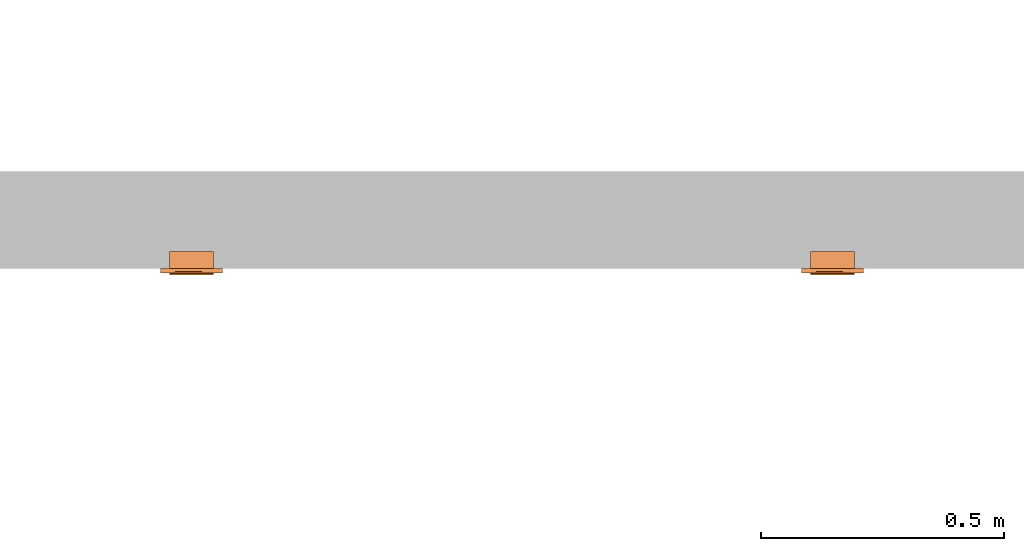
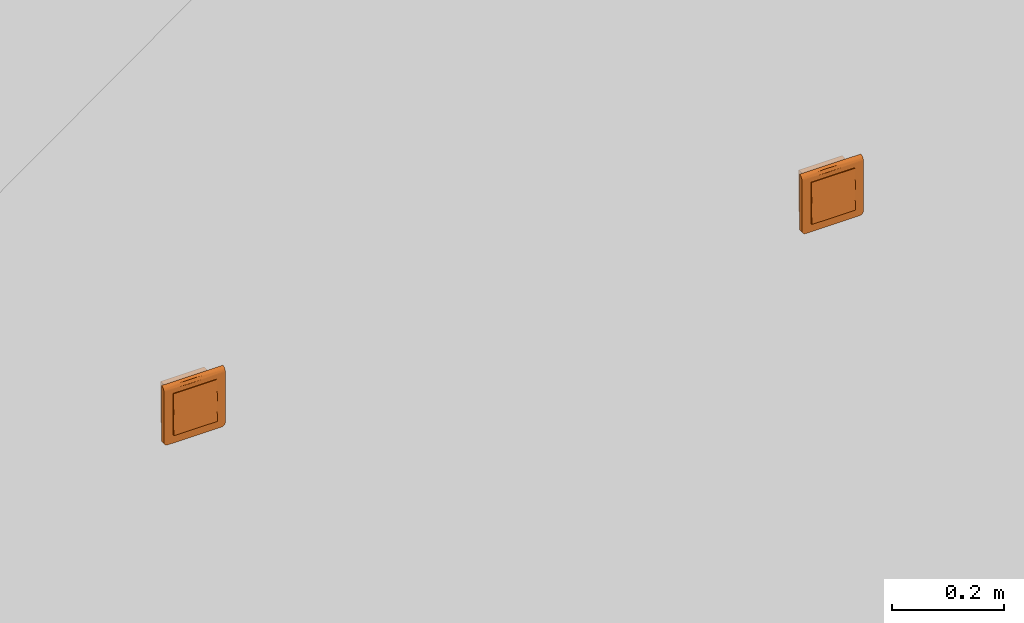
# One storey, part 148 of 197: 2 proxies.
"""IFC2X3 building model written with IfcOpenShell, lengths in metres."""

from ifc_helpers import new_model, entity, si_unit, converted_unit, direction, frame, origin, place, context, subcontext, project, spatial, faceted_brep, source, transform, mapped, material, material_list, type_object, type_shapes, element, save


model = new_model("IFC2X3")

# Units and contexts
model_context = context("Model", 3, precision=1e-05, world=origin(), true_north=direction((6.123031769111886e-17, 1.0)))
body_context = subcontext(model_context, "Body", "Model", "MODEL_VIEW")
ifc_project = project(units=[si_unit("LENGTHUNIT", "METRE"), converted_unit("PLANEANGLEUNIT", "DEGREE", entity("IfcPlaneAngleMeasure", 0.017453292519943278), si_unit("PLANEANGLEUNIT", "RADIAN"), dimensions=[0, 0, 0, 0, 0, 0, 0]), si_unit("AREAUNIT", "SQUARE_METRE")], contexts=[model_context])

# Site, building, storey
site_placement = place(None, origin())
site = spatial("IfcSite", under=ifc_project, at=site_placement, Name="Default", CompositionType="ELEMENT")
building_placement = place(site_placement, origin())
building = spatial("IfcBuilding", under=site, at=building_placement, CompositionType="ELEMENT")
storey_placement = place(building_placement, origin())
storey = spatial("IfcBuildingStorey", under=building, at=storey_placement, Name="Niveau 0", CompositionType="ELEMENT", Elevation=0.0)

# Proxies
ifc_material_1 = material(Name="<Unnamed>")
ifc_material_2 = material(Name="BETCE-DOIGT-BLANC")
ifc_material_3 = material(Name="BETCE-ENJOLIVEUR-BLANC")
ifc_material_list = material_list([ifc_material_1, ifc_material_2, ifc_material_3])
building_element_proxy_type_1 = type_object("IfcBuildingElementProxyType", Name="Tableau commande 2x4 modules encastré:8 BP", PredefinedType="NOTDEFINED", material=ifc_material_list)
shared_shape_1 = source(origin(), body_context, "Body", "Brep", [
    faceted_brep([(0.04499999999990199, 0.0, 0.0), (0.04499999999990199, 0.03499999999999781, 0.0), (0.022499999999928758, 0.03499999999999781, 0.0), (0.022499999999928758, 0.0, 0.0), (0.04499999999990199, 0.0, -0.045000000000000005), (0.022499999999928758, 0.0, -0.045000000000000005), (0.022499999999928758, 0.03499999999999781, -0.045000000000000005), (0.04499999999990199, 0.03499999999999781, -0.045000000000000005)], [[[0, 1, 2, 3]], [[4, 5, 6, 7]], [[1, 0, 4, 7]], [[2, 1, 7, 6]], [[3, 2, 6, 5]], [[0, 3, 5, 4]]]),
    faceted_brep([(0.04499999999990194, 0.0, 0.045000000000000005), (0.04499999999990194, 0.03499999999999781, 0.045000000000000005), (0.022499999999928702, 0.03499999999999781, 0.045000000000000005), (0.022499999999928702, 0.0, 0.045000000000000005), (0.04499999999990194, 0.0, 0.0), (0.022499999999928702, 0.0, 0.0), (0.022499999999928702, 0.03499999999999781, 0.0), (0.04499999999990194, 0.03499999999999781, 0.0)], [[[0, 1, 2, 3]], [[4, 5, 6, 7]], [[1, 0, 4, 7]], [[2, 1, 7, 6]], [[3, 2, 6, 5]], [[0, 3, 5, 4]]]),
    faceted_brep([(0.022499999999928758, 0.0, 0.0), (0.022499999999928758, 0.03499999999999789, 0.0), (0.0, 0.03499999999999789, 0.0), (0.0, 0.0, 0.0), (0.022499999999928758, 0.0, -0.045000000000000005), (0.0, 0.0, -0.045000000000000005), (0.0, 0.03499999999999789, -0.045000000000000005), (0.022499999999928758, 0.03499999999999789, -0.045000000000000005)], [[[0, 1, 2, 3]], [[4, 5, 6, 7]], [[1, 0, 4, 7]], [[2, 1, 7, 6]], [[3, 2, 6, 5]], [[0, 3, 5, 4]]]),
    faceted_brep([(0.0224999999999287, 0.0, 0.045000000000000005), (0.0224999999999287, 0.03499999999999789, 0.045000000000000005), (0.0, 0.03499999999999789, 0.045000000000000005), (0.0, 0.0, 0.045000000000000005), (0.0224999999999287, 0.0, 0.0), (0.0, 0.0, 0.0), (0.0, 0.03499999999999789, 0.0), (0.0224999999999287, 0.03499999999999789, 0.0)], [[[0, 1, 2, 3]], [[4, 5, 6, 7]], [[1, 0, 4, 7]], [[2, 1, 7, 6]], [[3, 2, 6, 5]], [[0, 3, 5, 4]]]),
    faceted_brep([(0.0, 0.0, 0.0), (0.0, 0.034999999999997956, 0.0), (-0.022500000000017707, 0.034999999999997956, 0.0), (-0.022500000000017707, 0.0, 0.0), (0.0, 0.0, -0.045000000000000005), (-0.022500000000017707, 0.0, -0.045000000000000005), (-0.022500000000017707, 0.034999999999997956, -0.045000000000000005), (0.0, 0.034999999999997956, -0.045000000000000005)], [[[0, 1, 2, 3]], [[4, 5, 6, 7]], [[1, 0, 4, 7]], [[2, 1, 7, 6]], [[3, 2, 6, 5]], [[0, 3, 5, 4]]]),
    faceted_brep([(0.0, 0.0, 0.045000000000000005), (0.0, 0.034999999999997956, 0.045000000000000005), (-0.022500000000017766, 0.034999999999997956, 0.045000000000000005), (-0.022500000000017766, 0.0, 0.045000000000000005), (0.0, 0.0, 0.0), (-0.022500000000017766, 0.0, 0.0), (-0.022500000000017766, 0.034999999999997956, 0.0), (0.0, 0.034999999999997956, 0.0)], [[[0, 1, 2, 3]], [[4, 5, 6, 7]], [[1, 0, 4, 7]], [[2, 1, 7, 6]], [[3, 2, 6, 5]], [[0, 3, 5, 4]]]),
    faceted_brep([(-0.02250000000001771, 0.0, 0.0), (-0.02250000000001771, 0.034999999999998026, 0.0), (-0.044999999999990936, 0.034999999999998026, 0.0), (-0.044999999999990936, 0.0, 0.0), (-0.02250000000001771, 0.0, -0.045000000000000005), (-0.044999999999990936, 0.0, -0.045000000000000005), (-0.044999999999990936, 0.034999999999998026, -0.045000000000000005), (-0.02250000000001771, 0.034999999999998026, -0.045000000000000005)], [[[0, 1, 2, 3]], [[4, 5, 6, 7]], [[1, 0, 4, 7]], [[2, 1, 7, 6]], [[3, 2, 6, 5]], [[0, 3, 5, 4]]]),
    faceted_brep([(-0.022500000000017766, 0.0, 0.045000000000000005), (-0.022500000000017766, 0.034999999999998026, 0.045000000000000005), (-0.044999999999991, 0.034999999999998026, 0.045000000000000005), (-0.044999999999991, 0.0, 0.045000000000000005), (-0.022500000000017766, 0.0, 0.0), (-0.044999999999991, 0.0, 0.0), (-0.044999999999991, 0.034999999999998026, 0.0), (-0.022500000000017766, 0.034999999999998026, 0.0)], [[[0, 1, 2, 3]], [[4, 5, 6, 7]], [[1, 0, 4, 7]], [[2, 1, 7, 6]], [[3, 2, 6, 5]], [[0, 3, 5, 4]]]),
    faceted_brep([(0.022499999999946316, 0.0, -0.045000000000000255), (0.022499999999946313, 0.0, 0.0), (0.04499999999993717, 0.0, 0.0), (0.04499999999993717, 0.0, -0.045000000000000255), (0.022499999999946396, -0.012750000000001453, -0.045000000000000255), (0.022499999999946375, -0.010500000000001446, 0.0), (0.044999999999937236, -0.010500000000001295, 0.0), (0.04499999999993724, -0.012750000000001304, -0.045000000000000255)], [[[0, 1, 2, 3]], [[1, 0, 4, 5]], [[2, 1, 5, 6]], [[3, 2, 6, 7]], [[0, 3, 7, 4]], [[5, 4, 7, 6]]]),
    faceted_brep([(0.0, 0.0, -0.04500000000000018), (0.0, 0.0, 0.0), (0.022499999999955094, 0.0, 0.0), (0.022499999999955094, 0.0, -0.04500000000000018), (0.0, -0.012750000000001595, -0.04500000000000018), (0.0, -0.010500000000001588, 0.0), (0.022499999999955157, -0.01050000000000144, 0.0), (0.022499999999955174, -0.012750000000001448, -0.04500000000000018)], [[[0, 1, 2, 3]], [[1, 0, 4, 5]], [[2, 1, 5, 6]], [[3, 2, 6, 7]], [[0, 3, 7, 4]], [[5, 4, 7, 6]]]),
    faceted_brep([(-0.022500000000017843, 0.0, -0.0450000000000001), (-0.022500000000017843, 0.0, 0.0), (0.0, 0.0, 0.0), (0.0, 0.0, -0.0450000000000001), (-0.02250000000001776, -0.012750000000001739, -0.0450000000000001), (-0.022500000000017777, -0.010500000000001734, 0.0), (0.0, -0.010500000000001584, 0.0), (0.0, -0.012750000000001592, -0.0450000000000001)], [[[0, 1, 2, 3]], [[1, 0, 4, 5]], [[2, 1, 5, 6]], [[3, 2, 6, 7]], [[0, 3, 7, 4]], [[5, 4, 7, 6]]]),
    faceted_brep([(-0.04499999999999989, 0.0, -0.045000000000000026), (-0.04499999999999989, 0.0, 0.0), (-0.022500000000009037, 0.0, 0.0), (-0.022500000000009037, 0.0, -0.045000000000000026), (-0.04499999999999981, -0.012750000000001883, -0.045000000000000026), (-0.04499999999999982, -0.010500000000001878, 0.0), (-0.022500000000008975, -0.01050000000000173, 0.0), (-0.022500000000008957, -0.012750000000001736, -0.045000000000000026)], [[[0, 1, 2, 3]], [[1, 0, 4, 5]], [[2, 1, 5, 6]], [[3, 2, 6, 7]], [[0, 3, 7, 4]], [[5, 4, 7, 6]]]),
    faceted_brep([(0.02249999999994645, -0.010500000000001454, 0.04499999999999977), (0.022499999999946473, -0.012750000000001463, 0.0), (0.04499999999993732, -0.012750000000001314, 0.0), (0.044999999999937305, -0.010500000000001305, 0.04499999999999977), (0.022499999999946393, 0.0, 0.0), (0.02249999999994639, 0.0, 0.04499999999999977), (0.04499999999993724, 0.0, 0.04499999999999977), (0.04499999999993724, 0.0, 0.0)], [[[0, 1, 2, 3]], [[4, 5, 6, 7]], [[5, 4, 1, 0]], [[6, 5, 0, 3]], [[7, 6, 3, 2]], [[4, 7, 2, 1]]]),
    faceted_brep([(0.0, -0.010500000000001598, 0.044999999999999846), (0.0, -0.012750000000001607, 0.0), (0.02249999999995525, -0.012750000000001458, 0.0), (0.022499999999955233, -0.010500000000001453, 0.044999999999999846), (0.0, 0.0, 0.0), (0.0, 0.0, 0.044999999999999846), (0.02249999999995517, 0.0, 0.04499999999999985), (0.02249999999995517, 0.0, 0.0)], [[[0, 1, 2, 3]], [[4, 5, 6, 7]], [[5, 4, 1, 0]], [[6, 5, 0, 3]], [[7, 6, 3, 2]], [[4, 7, 2, 1]]]),
    faceted_brep([(-0.0225000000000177, -0.010500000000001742, 0.04499999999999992), (-0.022500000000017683, -0.01275000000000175, 0.0), (0.0, -0.012750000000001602, 0.0), (0.0, -0.010500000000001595, 0.04499999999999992), (-0.022500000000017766, 0.0, 0.0), (-0.022500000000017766, 0.0, 0.04499999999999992), (0.0, 0.0, 0.04499999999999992), (0.0, 0.0, 0.0)], [[[0, 1, 2, 3]], [[4, 5, 6, 7]], [[5, 4, 1, 0]], [[6, 5, 0, 3]], [[7, 6, 3, 2]], [[4, 7, 2, 1]]]),
    faceted_brep([(-0.044999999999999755, -0.010500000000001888, 0.045), (-0.044999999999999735, -0.012750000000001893, 0.0), (-0.02250000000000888, -0.012750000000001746, 0.0), (-0.0225000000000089, -0.010500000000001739, 0.045), (-0.04499999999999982, 0.0, 0.0), (-0.04499999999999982, 0.0, 0.045), (-0.022500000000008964, 0.0, 0.045000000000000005), (-0.022500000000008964, 0.0, 0.0)], [[[0, 1, 2, 3]], [[4, 5, 6, 7]], [[5, 4, 1, 0]], [[6, 5, 0, 3]], [[7, 6, 3, 2]], [[4, 7, 2, 1]]]),
    faceted_brep([(0.06350000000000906, -0.009000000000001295, -0.055500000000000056), (0.06350000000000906, -0.009000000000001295, 0.05450000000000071), (0.045000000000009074, -0.00900000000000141, -0.045000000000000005), (0.055500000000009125, -0.009000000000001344, -0.06350000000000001), (0.057570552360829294, -0.009000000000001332, -0.06322740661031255), (0.06322740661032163, -0.009000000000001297, -0.05757055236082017), (0.04500000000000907, -0.00900000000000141, 0.045), (-0.044999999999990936, -0.00900000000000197, 0.045000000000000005), (-0.01112442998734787, -0.009000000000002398, 0.054500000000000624), (-0.06349999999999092, -0.009000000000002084, 0.05450000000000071), (-0.044999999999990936, -0.00900000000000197, -0.045000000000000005), (-0.06349999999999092, -0.009000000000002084, -0.05550000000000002), (-0.055499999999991, -0.009000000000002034, -0.06350000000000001), (-0.0575705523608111, -0.009000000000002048, -0.06322740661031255), (-0.06322740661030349, -0.009000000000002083, -0.05757055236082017), (-0.05949999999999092, -0.00900000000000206, -0.062428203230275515), (-0.062428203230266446, -0.009000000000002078, -0.05950000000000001), (-0.06115685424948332, -0.00900000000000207, -0.06115685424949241), (0.059500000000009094, -0.00900000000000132, -0.062428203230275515), (0.062428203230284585, -0.009000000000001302, -0.05949999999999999), (0.06115685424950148, -0.009000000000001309, -0.061156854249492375), (-0.063499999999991, 0.0, -0.05550000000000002), (-0.063499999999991, 0.0, 0.06350000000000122), (-0.044999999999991, 0.0, 0.045000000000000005), (-0.044999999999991, 0.0, -0.045000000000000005), (-0.055499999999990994, 0.0, -0.06350000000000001), (-0.06322740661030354, 0.0, -0.05757055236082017), (0.045000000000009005, 0.0, 0.045000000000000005), (0.011124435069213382, 0.0, 0.06350000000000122), (0.06350000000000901, 0.0, 0.0635), (0.06350000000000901, 0.0, -0.05550000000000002), (0.045000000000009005, 0.0, -0.045000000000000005), (0.05550000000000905, 0.0, -0.06350000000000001), (0.06322740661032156, 0.0, -0.05757055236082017), (0.057570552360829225, 0.0, -0.06322740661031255), (0.06242820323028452, 0.0, -0.05949999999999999), (0.05950000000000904, 0.0, -0.062428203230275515), (0.06115685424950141, 0.0, -0.061156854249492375), (-0.05757055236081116, 0.0, -0.06322740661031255), (-0.0624282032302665, 0.0, -0.05950000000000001), (-0.059499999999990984, 0.0, -0.062428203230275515), (-0.06115685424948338, 0.0, -0.06115685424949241), (0.06350000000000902, -0.00232937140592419, 0.06319333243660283), (0.06350000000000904, -0.004500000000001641, 0.06229422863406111), (0.06350000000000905, -0.006363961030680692, 0.06086396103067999), (0.06350000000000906, -0.007794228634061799, 0.05900000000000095), (0.06350000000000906, -0.008693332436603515, 0.056829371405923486), (-0.06349999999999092, -0.00869333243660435, 0.0568293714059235), (-0.06349999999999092, -0.007794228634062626, 0.059000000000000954), (-0.06349999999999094, -0.006363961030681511, 0.06086396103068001), (-0.06349999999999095, -0.004500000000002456, 0.062294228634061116), (-0.06349999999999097, -0.002329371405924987, 0.06319333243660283), (-0.010857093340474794, -0.006120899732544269, 0.06109807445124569)], [[[0, 1, 2]], [[3, 0, 2]], [[0, 3, 4]], [[5, 0, 4]], [[2, 1, 6]], [[1, 7, 6]], [[7, 1, 8]], [[7, 8, 9]], [[10, 7, 9]], [[11, 10, 9]], [[12, 10, 11]], [[12, 11, 13]], [[13, 11, 14]], [[15, 13, 14]], [[16, 15, 14]], [[15, 16, 17]], [[10, 12, 3]], [[2, 10, 3]], [[5, 4, 18]], [[5, 18, 19]], [[20, 19, 18]], [[21, 22, 23]], [[24, 21, 23]], [[25, 21, 24]], [[26, 21, 25]], [[22, 27, 23]], [[27, 22, 28]], [[27, 28, 29]], [[30, 27, 29]], [[31, 27, 30]], [[32, 31, 30]], [[32, 30, 33]], [[32, 33, 34]], [[33, 35, 34]], [[35, 36, 34]], [[36, 35, 37]], [[31, 32, 25]], [[26, 25, 38]], [[24, 31, 25]], [[39, 26, 38]], [[39, 38, 40]], [[41, 39, 40]], [[1, 0, 30, 29, 42, 43, 44, 45, 46]], [[33, 30, 0, 5]], [[35, 33, 5, 19]], [[37, 35, 19, 20]], [[36, 37, 20, 18]], [[34, 36, 18, 4]], [[32, 34, 4, 3]], [[25, 32, 3, 12]], [[38, 25, 12, 13]], [[40, 38, 13, 15]], [[41, 40, 15, 17]], [[39, 41, 17, 16]], [[26, 39, 16, 14]], [[21, 26, 14, 11]], [[22, 21, 11, 9, 47, 48, 49, 50, 51]], [[24, 23, 7, 10]], [[31, 24, 10, 2]], [[27, 31, 2, 6]], [[23, 27, 6, 7]], [[52, 8, 45]], [[47, 9, 8]], [[1, 46, 8]], [[44, 52, 45]], [[46, 45, 8]], [[50, 52, 51]], [[48, 47, 8]], [[28, 52, 43]], [[48, 52, 49]], [[42, 29, 28]], [[28, 22, 51]], [[48, 8, 52]], [[28, 43, 42]], [[44, 43, 52]], [[52, 50, 49]], [[52, 28, 51]]]),
])
type_shapes(building_element_proxy_type_1, [shared_shape_1])
proxy_1_placement = place(storey_placement, frame((-366.5047796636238, 122.781355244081, 1.1)))
element("IfcBuildingElementProxy", 1, at=proxy_1_placement, inside=storey, type_object=building_element_proxy_type_1, material=ifc_material_list, Name="Tableau commande 2x4 modules encastré:8 BP", ObjectType="Tableau commande 2x4 modules encastré:8 BP", context=body_context, shape_type="MappedRepresentation", body=[
    mapped(shared_shape_1, transform((0.0, 0.0, 0.0), scale=1.0)),
])
building_element_proxy_type_2 = type_object("IfcBuildingElementProxyType", Name="Tableau commande 2x4 modules encastré:8 SA", PredefinedType="NOTDEFINED", material=ifc_material_list)
shared_shape_2 = source(origin(), body_context, "Body", "Brep", [
    faceted_brep([(0.04499999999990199, 0.0, 0.0), (0.04499999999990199, 0.03499999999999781, 0.0), (0.022499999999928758, 0.03499999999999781, 0.0), (0.022499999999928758, 0.0, 0.0), (0.04499999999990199, 0.0, -0.045000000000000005), (0.022499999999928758, 0.0, -0.045000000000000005), (0.022499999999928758, 0.03499999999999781, -0.045000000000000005), (0.04499999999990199, 0.03499999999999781, -0.045000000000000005)], [[[0, 1, 2, 3]], [[4, 5, 6, 7]], [[1, 0, 4, 7]], [[2, 1, 7, 6]], [[3, 2, 6, 5]], [[0, 3, 5, 4]]]),
    faceted_brep([(0.04499999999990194, 0.0, 0.045000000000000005), (0.04499999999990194, 0.03499999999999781, 0.045000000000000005), (0.022499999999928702, 0.03499999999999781, 0.045000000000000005), (0.022499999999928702, 0.0, 0.045000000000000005), (0.04499999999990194, 0.0, 0.0), (0.022499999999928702, 0.0, 0.0), (0.022499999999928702, 0.03499999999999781, 0.0), (0.04499999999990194, 0.03499999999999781, 0.0)], [[[0, 1, 2, 3]], [[4, 5, 6, 7]], [[1, 0, 4, 7]], [[2, 1, 7, 6]], [[3, 2, 6, 5]], [[0, 3, 5, 4]]]),
    faceted_brep([(0.022499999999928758, 0.0, 0.0), (0.022499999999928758, 0.03499999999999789, 0.0), (0.0, 0.03499999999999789, 0.0), (0.0, 0.0, 0.0), (0.022499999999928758, 0.0, -0.045000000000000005), (0.0, 0.0, -0.045000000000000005), (0.0, 0.03499999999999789, -0.045000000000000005), (0.022499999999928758, 0.03499999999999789, -0.045000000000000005)], [[[0, 1, 2, 3]], [[4, 5, 6, 7]], [[1, 0, 4, 7]], [[2, 1, 7, 6]], [[3, 2, 6, 5]], [[0, 3, 5, 4]]]),
    faceted_brep([(0.0224999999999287, 0.0, 0.045000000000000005), (0.0224999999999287, 0.03499999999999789, 0.045000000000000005), (0.0, 0.03499999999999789, 0.045000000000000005), (0.0, 0.0, 0.045000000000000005), (0.0224999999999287, 0.0, 0.0), (0.0, 0.0, 0.0), (0.0, 0.03499999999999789, 0.0), (0.0224999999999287, 0.03499999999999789, 0.0)], [[[0, 1, 2, 3]], [[4, 5, 6, 7]], [[1, 0, 4, 7]], [[2, 1, 7, 6]], [[3, 2, 6, 5]], [[0, 3, 5, 4]]]),
    faceted_brep([(0.0, 0.0, 0.0), (0.0, 0.034999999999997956, 0.0), (-0.022500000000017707, 0.034999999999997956, 0.0), (-0.022500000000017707, 0.0, 0.0), (0.0, 0.0, -0.045000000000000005), (-0.022500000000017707, 0.0, -0.045000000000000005), (-0.022500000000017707, 0.034999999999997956, -0.045000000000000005), (0.0, 0.034999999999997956, -0.045000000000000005)], [[[0, 1, 2, 3]], [[4, 5, 6, 7]], [[1, 0, 4, 7]], [[2, 1, 7, 6]], [[3, 2, 6, 5]], [[0, 3, 5, 4]]]),
    faceted_brep([(0.0, 0.0, 0.045000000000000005), (0.0, 0.034999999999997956, 0.045000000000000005), (-0.022500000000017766, 0.034999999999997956, 0.045000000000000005), (-0.022500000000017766, 0.0, 0.045000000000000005), (0.0, 0.0, 0.0), (-0.022500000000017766, 0.0, 0.0), (-0.022500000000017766, 0.034999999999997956, 0.0), (0.0, 0.034999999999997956, 0.0)], [[[0, 1, 2, 3]], [[4, 5, 6, 7]], [[1, 0, 4, 7]], [[2, 1, 7, 6]], [[3, 2, 6, 5]], [[0, 3, 5, 4]]]),
    faceted_brep([(-0.02250000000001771, 0.0, 0.0), (-0.02250000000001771, 0.034999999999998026, 0.0), (-0.044999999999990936, 0.034999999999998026, 0.0), (-0.044999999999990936, 0.0, 0.0), (-0.02250000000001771, 0.0, -0.045000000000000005), (-0.044999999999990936, 0.0, -0.045000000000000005), (-0.044999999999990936, 0.034999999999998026, -0.045000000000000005), (-0.02250000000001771, 0.034999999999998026, -0.045000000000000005)], [[[0, 1, 2, 3]], [[4, 5, 6, 7]], [[1, 0, 4, 7]], [[2, 1, 7, 6]], [[3, 2, 6, 5]], [[0, 3, 5, 4]]]),
    faceted_brep([(-0.022500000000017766, 0.0, 0.045000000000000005), (-0.022500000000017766, 0.034999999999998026, 0.045000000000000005), (-0.044999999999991, 0.034999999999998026, 0.045000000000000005), (-0.044999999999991, 0.0, 0.045000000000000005), (-0.022500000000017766, 0.0, 0.0), (-0.044999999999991, 0.0, 0.0), (-0.044999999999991, 0.034999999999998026, 0.0), (-0.022500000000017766, 0.034999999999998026, 0.0)], [[[0, 1, 2, 3]], [[4, 5, 6, 7]], [[1, 0, 4, 7]], [[2, 1, 7, 6]], [[3, 2, 6, 5]], [[0, 3, 5, 4]]]),
    faceted_brep([(0.022499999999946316, 0.0, -0.045000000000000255), (0.022499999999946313, 0.0, 0.0), (0.04499999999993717, 0.0, 0.0), (0.04499999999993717, 0.0, -0.045000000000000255), (0.022499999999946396, -0.012750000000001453, -0.045000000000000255), (0.022499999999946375, -0.010500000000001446, 0.0), (0.044999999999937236, -0.010500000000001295, 0.0), (0.04499999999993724, -0.012750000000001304, -0.045000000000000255)], [[[0, 1, 2, 3]], [[1, 0, 4, 5]], [[2, 1, 5, 6]], [[3, 2, 6, 7]], [[0, 3, 7, 4]], [[5, 4, 7, 6]]]),
    faceted_brep([(0.0, 0.0, -0.04500000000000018), (0.0, 0.0, 0.0), (0.022499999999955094, 0.0, 0.0), (0.022499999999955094, 0.0, -0.04500000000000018), (0.0, -0.012750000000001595, -0.04500000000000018), (0.0, -0.010500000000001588, 0.0), (0.022499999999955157, -0.01050000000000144, 0.0), (0.022499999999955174, -0.012750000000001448, -0.04500000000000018)], [[[0, 1, 2, 3]], [[1, 0, 4, 5]], [[2, 1, 5, 6]], [[3, 2, 6, 7]], [[0, 3, 7, 4]], [[5, 4, 7, 6]]]),
    faceted_brep([(-0.022500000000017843, 0.0, -0.0450000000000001), (-0.022500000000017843, 0.0, 0.0), (0.0, 0.0, 0.0), (0.0, 0.0, -0.0450000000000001), (-0.02250000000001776, -0.012750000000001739, -0.0450000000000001), (-0.022500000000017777, -0.010500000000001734, 0.0), (0.0, -0.010500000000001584, 0.0), (0.0, -0.012750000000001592, -0.0450000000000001)], [[[0, 1, 2, 3]], [[1, 0, 4, 5]], [[2, 1, 5, 6]], [[3, 2, 6, 7]], [[0, 3, 7, 4]], [[5, 4, 7, 6]]]),
    faceted_brep([(-0.04499999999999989, 0.0, -0.045000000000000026), (-0.04499999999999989, 0.0, 0.0), (-0.022500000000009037, 0.0, 0.0), (-0.022500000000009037, 0.0, -0.045000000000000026), (-0.04499999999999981, -0.012750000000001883, -0.045000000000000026), (-0.04499999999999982, -0.010500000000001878, 0.0), (-0.022500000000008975, -0.01050000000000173, 0.0), (-0.022500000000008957, -0.012750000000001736, -0.045000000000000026)], [[[0, 1, 2, 3]], [[1, 0, 4, 5]], [[2, 1, 5, 6]], [[3, 2, 6, 7]], [[0, 3, 7, 4]], [[5, 4, 7, 6]]]),
    faceted_brep([(0.02249999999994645, -0.010500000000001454, 0.04499999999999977), (0.022499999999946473, -0.012750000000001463, 0.0), (0.04499999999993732, -0.012750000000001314, 0.0), (0.044999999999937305, -0.010500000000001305, 0.04499999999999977), (0.022499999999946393, 0.0, 0.0), (0.02249999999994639, 0.0, 0.04499999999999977), (0.04499999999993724, 0.0, 0.04499999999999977), (0.04499999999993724, 0.0, 0.0)], [[[0, 1, 2, 3]], [[4, 5, 6, 7]], [[5, 4, 1, 0]], [[6, 5, 0, 3]], [[7, 6, 3, 2]], [[4, 7, 2, 1]]]),
    faceted_brep([(0.0, -0.010500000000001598, 0.044999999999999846), (0.0, -0.012750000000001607, 0.0), (0.02249999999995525, -0.012750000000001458, 0.0), (0.022499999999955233, -0.010500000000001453, 0.044999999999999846), (0.0, 0.0, 0.0), (0.0, 0.0, 0.044999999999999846), (0.02249999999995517, 0.0, 0.04499999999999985), (0.02249999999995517, 0.0, 0.0)], [[[0, 1, 2, 3]], [[4, 5, 6, 7]], [[5, 4, 1, 0]], [[6, 5, 0, 3]], [[7, 6, 3, 2]], [[4, 7, 2, 1]]]),
    faceted_brep([(-0.0225000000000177, -0.010500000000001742, 0.04499999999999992), (-0.022500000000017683, -0.01275000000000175, 0.0), (0.0, -0.012750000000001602, 0.0), (0.0, -0.010500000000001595, 0.04499999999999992), (-0.022500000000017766, 0.0, 0.0), (-0.022500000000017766, 0.0, 0.04499999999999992), (0.0, 0.0, 0.04499999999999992), (0.0, 0.0, 0.0)], [[[0, 1, 2, 3]], [[4, 5, 6, 7]], [[5, 4, 1, 0]], [[6, 5, 0, 3]], [[7, 6, 3, 2]], [[4, 7, 2, 1]]]),
    faceted_brep([(-0.044999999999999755, -0.010500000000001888, 0.045), (-0.044999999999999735, -0.012750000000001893, 0.0), (-0.02250000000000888, -0.012750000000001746, 0.0), (-0.0225000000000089, -0.010500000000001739, 0.045), (-0.04499999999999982, 0.0, 0.0), (-0.04499999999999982, 0.0, 0.045), (-0.022500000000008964, 0.0, 0.045000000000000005), (-0.022500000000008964, 0.0, 0.0)], [[[0, 1, 2, 3]], [[4, 5, 6, 7]], [[5, 4, 1, 0]], [[6, 5, 0, 3]], [[7, 6, 3, 2]], [[4, 7, 2, 1]]]),
    faceted_brep([(0.06350000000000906, -0.009000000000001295, -0.055500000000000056), (0.06350000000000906, -0.009000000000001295, 0.05450000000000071), (0.045000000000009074, -0.00900000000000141, -0.045000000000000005), (0.055500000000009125, -0.009000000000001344, -0.06350000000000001), (0.057570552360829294, -0.009000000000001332, -0.06322740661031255), (0.06322740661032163, -0.009000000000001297, -0.05757055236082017), (0.04500000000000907, -0.00900000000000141, 0.045), (-0.044999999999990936, -0.00900000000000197, 0.045000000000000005), (-0.01112442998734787, -0.009000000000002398, 0.054500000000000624), (-0.06349999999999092, -0.009000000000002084, 0.05450000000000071), (-0.044999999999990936, -0.00900000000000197, -0.045000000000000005), (-0.06349999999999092, -0.009000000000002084, -0.05550000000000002), (-0.055499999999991, -0.009000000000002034, -0.06350000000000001), (-0.0575705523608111, -0.009000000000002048, -0.06322740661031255), (-0.06322740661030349, -0.009000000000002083, -0.05757055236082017), (-0.05949999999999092, -0.00900000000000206, -0.062428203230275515), (-0.062428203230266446, -0.009000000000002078, -0.05950000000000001), (-0.06115685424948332, -0.00900000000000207, -0.06115685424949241), (0.059500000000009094, -0.00900000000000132, -0.062428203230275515), (0.062428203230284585, -0.009000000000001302, -0.05949999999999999), (0.06115685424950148, -0.009000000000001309, -0.061156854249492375), (-0.063499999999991, 0.0, -0.05550000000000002), (-0.063499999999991, 0.0, 0.06350000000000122), (-0.044999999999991, 0.0, 0.045000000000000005), (-0.044999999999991, 0.0, -0.045000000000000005), (-0.055499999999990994, 0.0, -0.06350000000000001), (-0.06322740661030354, 0.0, -0.05757055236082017), (0.045000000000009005, 0.0, 0.045000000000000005), (0.011124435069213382, 0.0, 0.06350000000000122), (0.06350000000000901, 0.0, 0.0635), (0.06350000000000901, 0.0, -0.05550000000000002), (0.045000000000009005, 0.0, -0.045000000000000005), (0.05550000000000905, 0.0, -0.06350000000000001), (0.06322740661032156, 0.0, -0.05757055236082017), (0.057570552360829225, 0.0, -0.06322740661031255), (0.06242820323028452, 0.0, -0.05949999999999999), (0.05950000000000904, 0.0, -0.062428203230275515), (0.06115685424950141, 0.0, -0.061156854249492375), (-0.05757055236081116, 0.0, -0.06322740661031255), (-0.0624282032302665, 0.0, -0.05950000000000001), (-0.059499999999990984, 0.0, -0.062428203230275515), (-0.06115685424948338, 0.0, -0.06115685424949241), (0.06350000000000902, -0.00232937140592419, 0.06319333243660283), (0.06350000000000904, -0.004500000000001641, 0.06229422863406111), (0.06350000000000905, -0.006363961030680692, 0.06086396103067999), (0.06350000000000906, -0.007794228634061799, 0.05900000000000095), (0.06350000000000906, -0.008693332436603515, 0.056829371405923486), (-0.06349999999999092, -0.00869333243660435, 0.0568293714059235), (-0.06349999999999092, -0.007794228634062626, 0.059000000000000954), (-0.06349999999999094, -0.006363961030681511, 0.06086396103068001), (-0.06349999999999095, -0.004500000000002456, 0.062294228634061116), (-0.06349999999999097, -0.002329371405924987, 0.06319333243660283), (-0.010857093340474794, -0.006120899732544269, 0.06109807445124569)], [[[0, 1, 2]], [[3, 0, 2]], [[0, 3, 4]], [[5, 0, 4]], [[2, 1, 6]], [[1, 7, 6]], [[7, 1, 8]], [[7, 8, 9]], [[10, 7, 9]], [[11, 10, 9]], [[12, 10, 11]], [[12, 11, 13]], [[13, 11, 14]], [[15, 13, 14]], [[16, 15, 14]], [[15, 16, 17]], [[10, 12, 3]], [[2, 10, 3]], [[5, 4, 18]], [[5, 18, 19]], [[20, 19, 18]], [[21, 22, 23]], [[24, 21, 23]], [[25, 21, 24]], [[26, 21, 25]], [[22, 27, 23]], [[27, 22, 28]], [[27, 28, 29]], [[30, 27, 29]], [[31, 27, 30]], [[32, 31, 30]], [[32, 30, 33]], [[32, 33, 34]], [[33, 35, 34]], [[35, 36, 34]], [[36, 35, 37]], [[31, 32, 25]], [[26, 25, 38]], [[24, 31, 25]], [[39, 26, 38]], [[39, 38, 40]], [[41, 39, 40]], [[1, 0, 30, 29, 42, 43, 44, 45, 46]], [[33, 30, 0, 5]], [[35, 33, 5, 19]], [[37, 35, 19, 20]], [[36, 37, 20, 18]], [[34, 36, 18, 4]], [[32, 34, 4, 3]], [[25, 32, 3, 12]], [[38, 25, 12, 13]], [[40, 38, 13, 15]], [[41, 40, 15, 17]], [[39, 41, 17, 16]], [[26, 39, 16, 14]], [[21, 26, 14, 11]], [[22, 21, 11, 9, 47, 48, 49, 50, 51]], [[24, 23, 7, 10]], [[31, 24, 10, 2]], [[27, 31, 2, 6]], [[23, 27, 6, 7]], [[52, 8, 45]], [[47, 9, 8]], [[1, 46, 8]], [[44, 52, 45]], [[46, 45, 8]], [[50, 52, 51]], [[48, 47, 8]], [[28, 52, 43]], [[48, 52, 49]], [[42, 29, 28]], [[28, 22, 51]], [[48, 8, 52]], [[28, 43, 42]], [[44, 43, 52]], [[52, 50, 49]], [[52, 28, 51]]]),
])
type_shapes(building_element_proxy_type_2, [shared_shape_2])
proxy_2_placement = place(storey_placement, frame((-365.1867796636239, 122.781355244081, 1.1)))
element("IfcBuildingElementProxy", 2, at=proxy_2_placement, inside=storey, type_object=building_element_proxy_type_2, material=ifc_material_list, Name="Tableau commande 2x4 modules encastré:8 SA", ObjectType="Tableau commande 2x4 modules encastré:8 SA", context=body_context, shape_type="MappedRepresentation", body=[
    mapped(shared_shape_2, transform((0.0, 0.0, 0.0), scale=1.0)),
])

save(model, "model.ifc")
